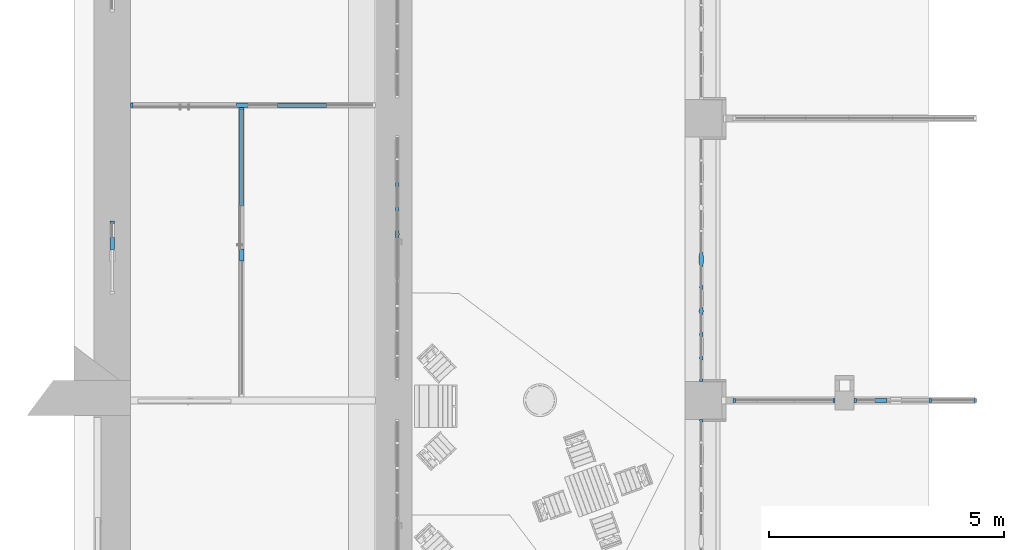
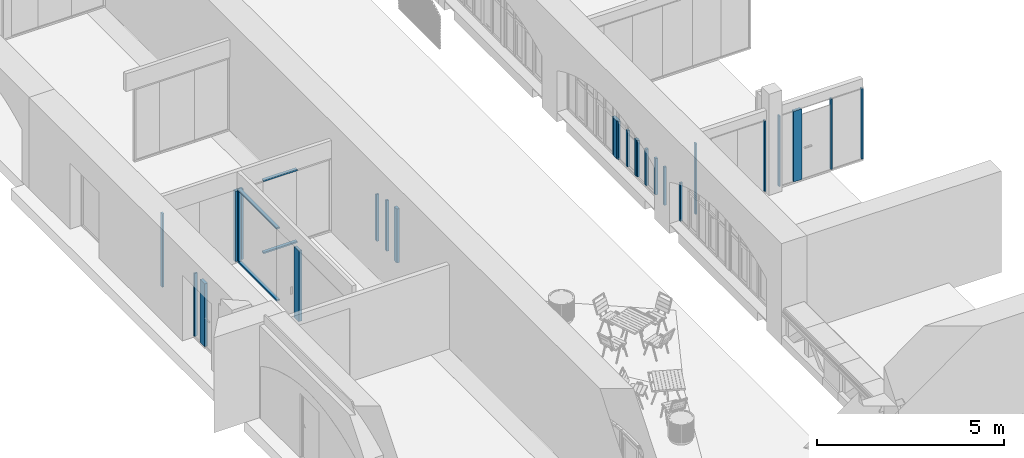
# One storey, part 5 of 88: 26 members, 8 elements without a shape of their own.
"""IFC2X3 building model written with IfcOpenShell, lengths in millimetres."""

from ifc_helpers import new_model, entity, si_unit, converted_unit, derived_unit, direction, frame, frame_2d, origin, origin_2d_with_axis, place, context, subcontext, project, spatial, polyline, circle_curve, parameter, trimmed, segment, composite_curve, rectangle, outline, extrude, source, transform, mapped, material, type_object, type_shapes, element, aggregate, save


model = new_model("IFC2X3")

# Units and contexts
model_context = context("Model", 3, precision=0.01, world=origin(), true_north=direction((6.123031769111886e-17, 1.0)))
body_context = subcontext(model_context, "Body", "Model", "MODEL_VIEW")
ifc_project = project(units=[si_unit("LENGTHUNIT", "METRE", prefix="MILLI"), si_unit("AREAUNIT", "SQUARE_METRE"), si_unit("VOLUMEUNIT", "CUBIC_METRE"), converted_unit("PLANEANGLEUNIT", "DEGREE", entity("IfcPlaneAngleMeasure", 0.017453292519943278), si_unit("PLANEANGLEUNIT", "RADIAN"), dimensions=[0, 0, 0, 0, 0, 0, 0]), si_unit("MASSUNIT", "GRAM", prefix="KILO"), derived_unit("MASSDENSITYUNIT", [(si_unit("MASSUNIT", "GRAM", prefix="KILO"), 1), (si_unit("LENGTHUNIT", "METRE"), -3)]), derived_unit("IONCONCENTRATIONUNIT", [(si_unit("MASSUNIT", "GRAM", prefix="KILO"), 1), (si_unit("LENGTHUNIT", "METRE"), -3)]), derived_unit("MOMENTOFINERTIAUNIT", [(si_unit("LENGTHUNIT", "METRE"), 4)]), si_unit("TIMEUNIT", "SECOND"), si_unit("FREQUENCYUNIT", "HERTZ"), si_unit("THERMODYNAMICTEMPERATUREUNIT", "DEGREE_CELSIUS"), derived_unit("THERMALTRANSMITTANCEUNIT", [(si_unit("MASSUNIT", "GRAM", prefix="KILO"), 1), (si_unit("THERMODYNAMICTEMPERATUREUNIT", "KELVIN"), -1), (si_unit("TIMEUNIT", "SECOND"), -3)]), derived_unit("THERMALCONDUCTANCEUNIT", [(si_unit("MASSUNIT", "GRAM", prefix="KILO"), 1), (si_unit("THERMODYNAMICTEMPERATUREUNIT", "KELVIN"), -1), (si_unit("TIMEUNIT", "SECOND"), -3), (si_unit("LENGTHUNIT", "METRE"), 1)]), derived_unit("VOLUMETRICFLOWRATEUNIT", [(si_unit("LENGTHUNIT", "METRE", prefix="DECI"), 3), (si_unit("TIMEUNIT", "SECOND"), -1)]), derived_unit("MASSFLOWRATEUNIT", [(si_unit("MASSUNIT", "GRAM", prefix="KILO"), 1), (si_unit("TIMEUNIT", "SECOND"), -1)]), derived_unit("ROTATIONALFREQUENCYUNIT", [(si_unit("TIMEUNIT", "SECOND"), -1)]), si_unit("ELECTRICCURRENTUNIT", "AMPERE"), si_unit("ELECTRICVOLTAGEUNIT", "VOLT"), si_unit("POWERUNIT", "WATT"), si_unit("FORCEUNIT", "NEWTON", prefix="KILO"), si_unit("ILLUMINANCEUNIT", "LUX"), si_unit("LUMINOUSFLUXUNIT", "LUMEN"), si_unit("LUMINOUSINTENSITYUNIT", "CANDELA"), si_unit("ENERGYUNIT", "JOULE"), derived_unit("USERDEFINED", [(si_unit("MASSUNIT", "GRAM", prefix="KILO"), -1), (si_unit("LENGTHUNIT", "METRE"), -2), (si_unit("TIMEUNIT", "SECOND"), 3), (si_unit("LUMINOUSFLUXUNIT", "LUMEN"), 1)]), derived_unit("USERDEFINED", [(si_unit("MASSUNIT", "GRAM", prefix="KILO"), 1), (si_unit("TIMEUNIT", "SECOND"), -3), (si_unit("LENGTHUNIT", "METRE"), 3), (si_unit("ELECTRICCURRENTUNIT", "AMPERE"), -2)]), derived_unit("SOUNDPOWERUNIT", [(si_unit("MASSUNIT", "GRAM", prefix="KILO"), 1), (si_unit("TIMEUNIT", "SECOND"), -3), (si_unit("LENGTHUNIT", "METRE"), 2)]), derived_unit("SOUNDPRESSUREUNIT", [(si_unit("MASSUNIT", "GRAM", prefix="KILO"), 1), (si_unit("LENGTHUNIT", "METRE"), -1), (si_unit("TIMEUNIT", "SECOND"), -2)]), derived_unit("LINEARVELOCITYUNIT", [(si_unit("LENGTHUNIT", "METRE"), 1), (si_unit("TIMEUNIT", "SECOND"), -1)]), si_unit("PRESSUREUNIT", "PASCAL"), derived_unit("USERDEFINED", [(si_unit("MASSUNIT", "GRAM", prefix="KILO"), 1), (si_unit("LENGTHUNIT", "METRE"), -2), (si_unit("TIMEUNIT", "SECOND"), -2)]), derived_unit("LINEARFORCEUNIT", [(si_unit("MASSUNIT", "GRAM", prefix="KILO"), 1), (si_unit("TIMEUNIT", "SECOND"), -2)]), derived_unit("PLANARFORCEUNIT", [(si_unit("MASSUNIT", "GRAM", prefix="KILO"), 1), (si_unit("LENGTHUNIT", "METRE"), -1), (si_unit("TIMEUNIT", "SECOND"), -2)]), derived_unit("SPECIFICHEATCAPACITYUNIT", [(si_unit("THERMODYNAMICTEMPERATUREUNIT", "KELVIN"), -1), (si_unit("LENGTHUNIT", "METRE"), 2), (si_unit("TIMEUNIT", "SECOND"), -2)]), derived_unit("HEATFLUXDENSITYUNIT", [(si_unit("MASSUNIT", "GRAM", prefix="KILO"), 1), (si_unit("TIMEUNIT", "SECOND"), -3)]), derived_unit("HEATINGVALUEUNIT", [(si_unit("LENGTHUNIT", "METRE"), 2), (si_unit("TIMEUNIT", "SECOND"), -2)]), derived_unit("VAPORPERMEABILITYUNIT", [(si_unit("LENGTHUNIT", "METRE"), -1), (si_unit("TIMEUNIT", "SECOND"), 1)]), derived_unit("DYNAMICVISCOSITYUNIT", [(si_unit("MASSUNIT", "GRAM", prefix="KILO"), 1), (si_unit("TIMEUNIT", "SECOND"), -1), (si_unit("LENGTHUNIT", "METRE"), -1)]), derived_unit("THERMALEXPANSIONCOEFFICIENTUNIT", [(si_unit("THERMODYNAMICTEMPERATUREUNIT", "KELVIN"), -1)]), derived_unit("MODULUSOFELASTICITYUNIT", [(si_unit("MASSUNIT", "GRAM", prefix="KILO"), 1), (si_unit("LENGTHUNIT", "METRE"), -1), (si_unit("TIMEUNIT", "SECOND"), -2)]), derived_unit("ISOTHERMALMOISTURECAPACITYUNIT", [(si_unit("MASSUNIT", "GRAM", prefix="KILO"), -1), (si_unit("LENGTHUNIT", "METRE"), 3)]), derived_unit("MOISTUREDIFFUSIVITYUNIT", [(si_unit("TIMEUNIT", "SECOND"), -1), (si_unit("LENGTHUNIT", "METRE"), 2)]), derived_unit("MASSPERLENGTHUNIT", [(si_unit("MASSUNIT", "GRAM", prefix="KILO"), 1), (si_unit("LENGTHUNIT", "METRE"), -1)]), derived_unit("THERMALRESISTANCEUNIT", [(si_unit("MASSUNIT", "GRAM", prefix="KILO"), -1), (si_unit("TIMEUNIT", "SECOND"), 3), (si_unit("THERMODYNAMICTEMPERATUREUNIT", "KELVIN"), 1)]), derived_unit("ACCELERATIONUNIT", [(si_unit("LENGTHUNIT", "METRE"), 1), (si_unit("TIMEUNIT", "SECOND"), -2)]), derived_unit("ANGULARVELOCITYUNIT", [(si_unit("TIMEUNIT", "SECOND"), -1), (si_unit("PLANEANGLEUNIT", "RADIAN"), 1)]), derived_unit("LINEARSTIFFNESSUNIT", [(si_unit("MASSUNIT", "GRAM", prefix="KILO"), 1), (si_unit("TIMEUNIT", "SECOND"), -2)]), derived_unit("WARPINGCONSTANTUNIT", [(si_unit("LENGTHUNIT", "METRE"), 6)]), derived_unit("LINEARMOMENTUNIT", [(si_unit("MASSUNIT", "GRAM", prefix="KILO"), 1), (si_unit("LENGTHUNIT", "METRE"), 1), (si_unit("TIMEUNIT", "SECOND"), -2)]), derived_unit("TORQUEUNIT", [(si_unit("MASSUNIT", "GRAM", prefix="KILO"), 1), (si_unit("LENGTHUNIT", "METRE"), 2), (si_unit("TIMEUNIT", "SECOND"), -2)])], contexts=[model_context])

# Site, building, storey
site_placement = place(None, origin())
site = spatial("IfcSite", under=ifc_project, at=site_placement, Name="Default", CompositionType="ELEMENT")
building_placement = place(site_placement, origin())
building = spatial("IfcBuilding", under=site, at=building_placement, Name="Eesti Rahvusraamatukogu hoone renoveerimise projekteerimistööd", CompositionType="ELEMENT")
storey_placement = place(building_placement, origin())
storey = spatial("IfcBuildingStorey", under=building, at=storey_placement, Name="1. korrus", CompositionType="ELEMENT", Elevation=0.0)

# Curtain wall, member
curtain_wall_type_1 = type_object("IfcCurtainWallType", Name="Curtain Wall:VLS Klaasvahesein profiilita 38db", PredefinedType="NOTDEFINED")
curtain_wall_1_placement = place(storey_placement, origin())
curtain_wall_1 = element("IfcCurtainWall", 1, at=curtain_wall_1_placement, inside=storey, type_object=curtain_wall_type_1, Name="Curtain Wall:VLS Klaasvahesein profiilita 38db", ObjectType="Curtain Wall:VLS Klaasvahesein profiilita 38db")
ifc_material_1 = material(Name="Aluminum")
member_type_1 = type_object("IfcMemberType", Name="Rectangular Mullion:50mm x 92mm", PredefinedType="MULLION", material=ifc_material_1)
shared_shape_1 = source(origin(), body_context, "Body", "SweptSolid", [
    extrude(rectangle(XDim=50.0, YDim=92.0, at=origin_2d_with_axis()), frame((-25.0, 0.0, -2400.0), z_axis=(0.0, 0.0, 1.0), x_axis=(-1.0, 0.0, 0.0)), (0.0, 0.0, 1.0), 2400.0000000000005),
])
type_shapes(member_type_1, [shared_shape_1])
member_1_placement = place(curtain_wall_1_placement, frame((-48580.0, 18670.0, 0.0), z_axis=(0.0, 0.0, -1.0), x_axis=(-1.0, 0.0, 0.0)))
member_1 = element("IfcMember", 2, at=member_1_placement, type_object=member_type_1, material=ifc_material_1, Name="Rectangular Mullion:50mm x 92mm", ObjectType="Rectangular Mullion:50mm x 92mm", context=body_context, shape_type="MappedRepresentation", body=[
    mapped(shared_shape_1, transform((0.0, 0.0, 0.0), scale=1.0)),
])

curtain_wall_2_placement = place(storey_placement, origin())
curtain_wall_2 = element("IfcCurtainWall", 3, at=curtain_wall_2_placement, inside=storey, type_object=curtain_wall_type_1, Name="Curtain Wall:VLS Klaasvahesein profiilita 38db", ObjectType="Curtain Wall:VLS Klaasvahesein profiilita 38db")
member_type_2 = type_object("IfcMemberType", Name="Rectangular Mullion:50mm x 92mm", PredefinedType="MULLION", material=ifc_material_1)
shared_shape_2 = source(origin(), body_context, "Body", "SweptSolid", [
    extrude(rectangle(XDim=50.0, YDim=92.0, at=origin_2d_with_axis()), frame((-25.0, 0.0, -2300.0), z_axis=(0.0, 0.0, 1.0), x_axis=(-1.0, 0.0, 0.0)), (0.0, 0.0, 1.0), 2300.0),
])
type_shapes(member_type_2, [shared_shape_2])
member_2_placement = place(curtain_wall_2_placement, frame((-46211.0, 18624.0, 2350.0), z_axis=(0.0, 0.0, 1.0), x_axis=(0.0, 1.0, 0.0)))
member_2 = element("IfcMember", 4, at=member_2_placement, type_object=member_type_2, material=ifc_material_1, Name="Rectangular Mullion:50mm x 92mm", ObjectType="Rectangular Mullion:50mm x 92mm", context=body_context, shape_type="MappedRepresentation", body=[
    mapped(shared_shape_2, transform((0.0, 0.0, 0.0), scale=1.0)),
])

curtain_wall_3_placement = place(storey_placement, origin())
curtain_wall_3 = element("IfcCurtainWall", 5, at=curtain_wall_3_placement, inside=storey, type_object=curtain_wall_type_1, Name="Curtain Wall:VLS Klaasvahesein profiilita 38db", ObjectType="Curtain Wall:VLS Klaasvahesein profiilita 38db")
member_3_placement = place(curtain_wall_3_placement, frame((-33590.0, 12390.0, 4000.0)))
member_3 = element("IfcMember", 6, at=member_3_placement, type_object=member_type_2, material=ifc_material_1, Name="Rectangular Mullion:50mm x 92mm", ObjectType="Rectangular Mullion:50mm x 92mm", context=body_context, shape_type="MappedRepresentation", body=[
    mapped(shared_shape_2, transform((0.0, 0.0, 0.0), scale=1.0)),
])

curtain_wall_4_placement = place(storey_placement, origin())
curtain_wall_4 = element("IfcCurtainWall", 7, at=curtain_wall_4_placement, inside=storey, type_object=curtain_wall_type_1, Name="Curtain Wall:VLS Klaasvahesein profiilita 38db", ObjectType="Curtain Wall:VLS Klaasvahesein profiilita 38db")
member_4_placement = place(curtain_wall_4_placement, frame((-33190.0, 12390.0, 4000.0), z_axis=(0.0, 0.0, 1.0), x_axis=(-1.0, 0.0, 0.0)))
member_4 = element("IfcMember", 8, at=member_4_placement, type_object=member_type_2, material=ifc_material_1, Name="Rectangular Mullion:50mm x 92mm", ObjectType="Rectangular Mullion:50mm x 92mm", context=body_context, shape_type="MappedRepresentation", body=[
    mapped(shared_shape_2, transform((0.0, 0.0, 0.0), scale=1.0)),
])

# Member
member_type_3 = type_object("IfcMemberType", Name="Rectangular Mullion:50mm x 92mm", PredefinedType="MULLION", material=ifc_material_1)
shared_shape_3 = source(origin(), body_context, "Body", "SweptSolid", [
    extrude(rectangle(XDim=50.0, YDim=92.0, at=frame_2d((0.0, 3.552713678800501e-15), x_axis=(1.0, 0.0))), frame((-25.0, 0.0, -1041.9999998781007), z_axis=(0.0, 0.0, 1.0), x_axis=(-1.0, 0.0, 0.0)), (0.0, 0.0, 1.0), 1041.9999998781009),
])
type_shapes(member_type_3, [shared_shape_3])
member_5_placement = place(curtain_wall_1_placement, frame((-44412.00000018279, 18670.0, 0.0), z_axis=(1.0, 0.0, 0.0), x_axis=(0.0, 0.0, -1.0)))
member_5 = element("IfcMember", 9, at=member_5_placement, type_object=member_type_3, material=ifc_material_1, Name="Rectangular Mullion:50mm x 92mm", ObjectType="Rectangular Mullion:50mm x 92mm", context=body_context, shape_type="MappedRepresentation", body=[
    mapped(shared_shape_3, transform((0.0, 0.0, 0.0), scale=1.0)),
])

member_type_4 = type_object("IfcMemberType", Name="Rectangular Mullion:50mm x 92mm", PredefinedType="MULLION", material=ifc_material_1)
shared_shape_4 = source(origin(), body_context, "Body", "SweptSolid", [
    extrude(rectangle(XDim=50.0, YDim=92.0, at=frame_2d((0.0, 3.552713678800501e-15), x_axis=(1.0, 0.0))), frame((-25.0, 0.0, -1041.999999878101), z_axis=(0.0, 0.0, 1.0), x_axis=(-1.0, 0.0, 0.0)), (0.0, 0.0, 1.0), 1041.9999998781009),
])
type_shapes(member_type_4, [shared_shape_4])
member_6_placement = place(curtain_wall_1_placement, frame((-45454.000000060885, 18670.0, 2400.0), z_axis=(-1.0, 0.0, 0.0), x_axis=(0.0, 0.0, 1.0)))
member_6 = element("IfcMember", 10, at=member_6_placement, type_object=member_type_4, material=ifc_material_1, Name="Rectangular Mullion:50mm x 92mm", ObjectType="Rectangular Mullion:50mm x 92mm", context=body_context, shape_type="MappedRepresentation", body=[
    mapped(shared_shape_4, transform((0.0, 0.0, 0.0), scale=1.0)),
])

member_type_5 = type_object("IfcMemberType", Name="Rectangular Mullion:250mm x 92mm VASAK", PredefinedType="MULLION", material=ifc_material_1)
shared_shape_5 = source(origin(), body_context, "Body", "SweptSolid", [
    extrude(rectangle(XDim=250.00000000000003, YDim=92.0, at=origin_2d_with_axis()), frame((-100.0, 0.0, -2300.0), z_axis=(0.0, 0.0, 1.0), x_axis=(-1.0, 0.0, 0.0)), (0.0, 0.0, 1.0), 2300.0),
])
type_shapes(member_type_5, [shared_shape_5])
member_7_placement = place(curtain_wall_1_placement, frame((-46305.0, 18670.0, 50.0), z_axis=(0.0, 0.0, -1.0), x_axis=(-1.0, 0.0, 0.0)))
member_7 = element("IfcMember", 11, at=member_7_placement, type_object=member_type_5, material=ifc_material_1, Name="Rectangular Mullion:250mm x 92mm VASAK", ObjectType="Rectangular Mullion:250mm x 92mm VASAK", context=body_context, shape_type="MappedRepresentation", body=[
    mapped(shared_shape_5, transform((0.0, 0.0, 0.0), scale=1.0)),
])

aggregate(curtain_wall_1, [member_1, member_5, member_6, member_7])

member_8_placement = place(curtain_wall_4_placement, frame((-32515.0, 12390.0, 1700.0), z_axis=(0.0, 0.0, -1.0), x_axis=(1.0, 0.0, 0.0)))
member_8 = element("IfcMember", 12, at=member_8_placement, type_object=member_type_5, material=ifc_material_1, Name="Rectangular Mullion:250mm x 92mm VASAK", ObjectType="Rectangular Mullion:250mm x 92mm VASAK", context=body_context, shape_type="MappedRepresentation", body=[
    mapped(shared_shape_5, transform((0.0, 0.0, 0.0), scale=1.0)),
])

member_type_6 = type_object("IfcMemberType", Name="Rectangular Mullion:50mm x 92mm", PredefinedType="MULLION", material=ifc_material_1)
shared_shape_6 = source(origin(), body_context, "Body", "SweptSolid", [
    extrude(rectangle(XDim=50.0, YDim=92.0, at=frame_2d((0.0, 3.552713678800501e-15), x_axis=(1.0, 0.0))), frame((-25.0, 0.0, -2090.91666686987), z_axis=(0.0, 0.0, 1.0), x_axis=(-1.0, 0.0, 0.0)), (0.0, 0.0, 1.0), 2090.91666686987),
])
type_shapes(member_type_6, [shared_shape_6])
member_9_placement = place(curtain_wall_2_placement, frame((-46211.0, 18624.0, 0.0), z_axis=(0.0, 1.0, 0.0), x_axis=(0.0, 0.0, -1.0)))
member_9 = element("IfcMember", 13, at=member_9_placement, type_object=member_type_6, material=ifc_material_1, Name="Rectangular Mullion:50mm x 92mm", ObjectType="Rectangular Mullion:50mm x 92mm", context=body_context, shape_type="MappedRepresentation", body=[
    mapped(shared_shape_6, transform((0.0, 0.0, 0.0), scale=1.0)),
])

member_type_7 = type_object("IfcMemberType", Name="Rectangular Mullion:50mm x 92mm", PredefinedType="MULLION", material=ifc_material_1)
shared_shape_7 = source(origin(), body_context, "Body", "SweptSolid", [
    extrude(rectangle(XDim=50.0, YDim=92.0, at=origin_2d_with_axis()), frame((-25.0, 0.0, -2300.0), z_axis=(0.0, 0.0, 1.0), x_axis=(-1.0, 0.0, 0.0)), (0.0, 0.0, 1.0), 2300.0),
])
type_shapes(member_type_7, [shared_shape_7])
member_10_placement = place(curtain_wall_3_placement, frame((-35765.49999999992, 12390.0, 1700.0), z_axis=(0.0, 0.0, -1.0), x_axis=(-1.0, 0.0, 0.0)))
member_10 = element("IfcMember", 14, at=member_10_placement, type_object=member_type_7, material=ifc_material_1, Name="Rectangular Mullion:50mm x 92mm", ObjectType="Rectangular Mullion:50mm x 92mm", context=body_context, shape_type="MappedRepresentation", body=[
    mapped(shared_shape_7, transform((0.0, 0.0, 0.0), scale=1.0)),
])

aggregate(curtain_wall_3, [member_10, member_3])

member_11_placement = place(curtain_wall_4_placement, frame((-30590.0, 12390.0, 1700.0), z_axis=(0.0, 0.0, -1.0), x_axis=(1.0, 0.0, 0.0)))
member_11 = element("IfcMember", 15, at=member_11_placement, type_object=member_type_7, material=ifc_material_1, Name="Rectangular Mullion:50mm x 92mm", ObjectType="Rectangular Mullion:50mm x 92mm", context=body_context, shape_type="MappedRepresentation", body=[
    mapped(shared_shape_7, transform((0.0, 0.0, 0.0), scale=1.0)),
])

member_type_8 = type_object("IfcMemberType", Name="Rectangular Mullion:50mm x 92mm", PredefinedType="MULLION", material=ifc_material_1)
shared_shape_8 = source(origin(), body_context, "Body", "SweptSolid", [
    extrude(rectangle(XDim=50.0, YDim=92.0, at=frame_2d((0.0, 3.552713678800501e-15), x_axis=(1.0, 0.0))), frame((-25.0, 0.0, -2090.91666686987), z_axis=(0.0, 0.0, 1.0), x_axis=(-1.0, 0.0, 0.0)), (0.0, 0.0, 1.0), 2090.91666686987),
])
type_shapes(member_type_8, [shared_shape_8])
member_12_placement = place(curtain_wall_2_placement, frame((-46211.0, 16533.083333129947, 2400.0), z_axis=(0.0, -1.0, 0.0), x_axis=(0.0, 0.0, 1.0)))
member_12 = element("IfcMember", 16, at=member_12_placement, type_object=member_type_8, material=ifc_material_1, Name="Rectangular Mullion:50mm x 92mm", ObjectType="Rectangular Mullion:50mm x 92mm", context=body_context, shape_type="MappedRepresentation", body=[
    mapped(shared_shape_8, transform((0.0, 0.0, 0.0), scale=1.0)),
])

member_type_9 = type_object("IfcMemberType", Name="Rectangular Mullion:250mm x 92mm PAREM", PredefinedType="MULLION", material=ifc_material_1)
shared_shape_9 = source(origin(), body_context, "Body", "SweptSolid", [
    extrude(rectangle(XDim=250.00000000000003, YDim=92.0, at=origin_2d_with_axis()), frame((100.0, 0.0, -2300.0), z_axis=(0.0, 0.0, 1.0), x_axis=(-1.0, 0.0, 0.0)), (0.0, 0.0, 1.0), 2300.0),
])
type_shapes(member_type_9, [shared_shape_9])
member_13_placement = place(curtain_wall_2_placement, frame((-46211.0, 15583.083333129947, 50.0), z_axis=(0.0, 0.0, -1.0), x_axis=(0.0, -1.0, 0.0)))
member_13 = element("IfcMember", 17, at=member_13_placement, type_object=member_type_9, material=ifc_material_1, Name="Rectangular Mullion:250mm x 92mm PAREM", ObjectType="Rectangular Mullion:250mm x 92mm PAREM", context=body_context, shape_type="MappedRepresentation", body=[
    mapped(shared_shape_9, transform((0.0, 0.0, 0.0), scale=1.0)),
])

aggregate(curtain_wall_2, [member_9, member_2, member_12, member_13])

# Curtain wall, members
curtain_wall_type_2 = type_object("IfcCurtainWallType", Name="Curtain Wall:Ak-02", PredefinedType="NOTDEFINED")
curtain_wall_5_placement = place(storey_placement, origin())
curtain_wall_5 = element("IfcCurtainWall", 18, at=curtain_wall_5_placement, inside=storey, type_object=curtain_wall_type_2, Name="Curtain Wall:Ak-02", ObjectType="Curtain Wall:Ak-02")
ifc_material_2 = material(Name="LUMION_dark steel window frames")
member_type_10 = type_object("IfcMemberType", Name="Rectangular Mullion:NEW 80x70mm", PredefinedType="MULLION", material=ifc_material_2)
shared_shape_10 = source(origin(), body_context, "Body", "SweptSolid", [
    extrude(rectangle(XDim=80.0, YDim=70.0, at=frame_2d((0.0, 3.552713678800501e-15), x_axis=(1.0, 0.0))), frame((0.0, 0.0, -1190.0), z_axis=(0.0, 0.0, 1.0), x_axis=(-1.0, 0.0, 0.0)), (0.0, 0.0, 1.0), 1189.9999999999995),
])
type_shapes(member_type_10, [shared_shape_10])
member_14_placement = place(curtain_wall_5_placement, frame((-36440.0, 14790.0, 2030.0), z_axis=(0.0, 0.0, -1.0), x_axis=(0.0, -1.0, 0.0)))
member_14 = element("IfcMember", 19, at=member_14_placement, type_object=member_type_10, material=ifc_material_2, Name="Rectangular Mullion:NEW 80x70mm", ObjectType="Rectangular Mullion:NEW 80x70mm", context=body_context, shape_type="MappedRepresentation", body=[
    mapped(shared_shape_10, transform((0.0, 0.0, 0.0), scale=1.0)),
])
member_15_placement = place(curtain_wall_5_placement, frame((-36440.0, 13790.0, 2030.0), z_axis=(0.0, 0.0, -1.0), x_axis=(0.0, -1.0, 0.0)))
member_15 = element("IfcMember", 20, at=member_15_placement, type_object=member_type_10, material=ifc_material_2, Name="Rectangular Mullion:NEW 80x70mm", ObjectType="Rectangular Mullion:NEW 80x70mm", context=body_context, shape_type="MappedRepresentation", body=[
    mapped(shared_shape_10, transform((0.0, 0.0, 0.0), scale=1.0)),
])
member_16_placement = place(curtain_wall_5_placement, frame((-36440.0, 13290.0, 2030.0), z_axis=(0.0, 0.0, -1.0), x_axis=(0.0, -1.0, 0.0)))
member_16 = element("IfcMember", 21, at=member_16_placement, type_object=member_type_10, material=ifc_material_2, Name="Rectangular Mullion:NEW 80x70mm", ObjectType="Rectangular Mullion:NEW 80x70mm", context=body_context, shape_type="MappedRepresentation", body=[
    mapped(shared_shape_10, transform((0.0, 0.0, 0.0), scale=1.0)),
])
member_type_11 = type_object("IfcMemberType", Name="Rectangular Mullion:NEW 150x90mm", PredefinedType="MULLION", material=ifc_material_2)
shared_shape_11 = source(origin(), body_context, "Body", "SweptSolid", [
    extrude(outline(polyline([(20.0, -40.0), (75.0, -40.0), (75.0, 40.0), (20.0, 40.0), (20.0, 45.0), (-20.0, 45.0), (-20.0, 40.0), (-75.0, 40.0), (-75.0, -40.0), (-20.0, -40.0), (-20.0, -45.0), (20.0, -45.0), (20.0, -40.0)])), frame((0.0, 0.0, -1190.0), z_axis=(0.0, 0.0, 1.0), x_axis=(-1.0, 0.0, 0.0)), (0.0, 0.0, 1.0), 1189.9999999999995),
])
type_shapes(member_type_11, [shared_shape_11])
member_17_placement = place(curtain_wall_5_placement, frame((-36440.0, 14290.0, 2030.0), z_axis=(0.0, 0.0, -1.0), x_axis=(0.0, -1.0, 0.0)))
member_17 = element("IfcMember", 22, at=member_17_placement, type_object=member_type_11, material=ifc_material_2, Name="Rectangular Mullion:NEW 150x90mm", ObjectType="Rectangular Mullion:NEW 150x90mm", context=body_context, shape_type="MappedRepresentation", body=[
    mapped(shared_shape_11, transform((0.0, 0.0, 0.0), scale=1.0)),
])
member_type_12 = type_object("IfcMemberType", Name="Rectangular Mullion:NEW 300x100mm", PredefinedType="MULLION", material=ifc_material_2)
shared_shape_12 = source(origin(), body_context, "Body", "SweptSolid", [
    extrude(outline(polyline([(85.0, -35.0), (150.0, -35.0), (150.0, 35.0), (85.0, 35.0), (85.0, 50.0), (-85.0, 50.0), (-85.0, 35.0), (-150.0, 35.0), (-150.0, -35.0), (-85.0, -35.0), (-85.0, -50.0), (85.0, -50.0), (85.0, -35.0)])), frame((0.0, 0.0, -1250.0), z_axis=(0.0, 0.0, 1.0), x_axis=(-1.0, 0.0, 0.0)), (0.0, 0.0, 1.0), 1249.9999999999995),
])
type_shapes(member_type_12, [shared_shape_12])
member_18_placement = place(curtain_wall_5_placement, frame((-36440.0, 15390.0, 1970.0), z_axis=(0.0, 0.0, -1.0), x_axis=(0.0, -1.0, 0.0)))
member_18 = element("IfcMember", 23, at=member_18_placement, type_object=member_type_12, material=ifc_material_2, Name="Rectangular Mullion:NEW 300x100mm", ObjectType="Rectangular Mullion:NEW 300x100mm", context=body_context, shape_type="MappedRepresentation", body=[
    mapped(shared_shape_12, transform((0.0, 0.0, 0.0), scale=1.0)),
])
member_type_13 = type_object("IfcMemberType", Name="Rectangular Mullion:NEW 60x70mm", PredefinedType="MULLION", material=ifc_material_2)
shared_shape_13 = source(origin(), body_context, "Body", "SweptSolid", [
    extrude(rectangle(XDim=60.0, YDim=70.0, at=frame_2d((0.0, 3.552713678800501e-15), x_axis=(1.0, 0.0))), frame((-30.0, 0.0, -1250.0), z_axis=(0.0, 0.0, 1.0), x_axis=(-1.0, 0.0, 0.0)), (0.0, 0.0, 1.0), 1249.9999999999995),
])
type_shapes(member_type_13, [shared_shape_13])
member_19_placement = place(curtain_wall_5_placement, frame((-36440.0, 12790.0, 1970.0), z_axis=(0.0, 0.0, -1.0), x_axis=(0.0, -1.0, 0.0)))
member_19 = element("IfcMember", 24, at=member_19_placement, type_object=member_type_13, material=ifc_material_2, Name="Rectangular Mullion:NEW 60x70mm", ObjectType="Rectangular Mullion:NEW 60x70mm", context=body_context, shape_type="MappedRepresentation", body=[
    mapped(shared_shape_13, transform((0.0, 0.0, 0.0), scale=1.0)),
])
aggregate(curtain_wall_5, [member_18, member_14, member_17, member_15, member_16, member_19])

# Curtain wall, member
curtain_wall_6_placement = place(storey_placement, origin())
curtain_wall_6 = element("IfcCurtainWall", 25, at=curtain_wall_6_placement, inside=storey, type_object=curtain_wall_type_2, Name="Curtain Wall:Ak-02", ObjectType="Curtain Wall:Ak-02")
member_type_14 = type_object("IfcMemberType", Name="Rectangular Mullion:NEW 60x70mm", PredefinedType="MULLION", material=ifc_material_2)
shared_shape_14 = source(origin(), body_context, "Body", "SweptSolid", [
    extrude(rectangle(XDim=60.0, YDim=70.0, at=frame_2d((0.0, 3.552713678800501e-15), x_axis=(1.0, 0.0))), frame((-30.0, 0.0, -1250.0), z_axis=(0.0, 0.0, 1.0), x_axis=(-1.0, 0.0, 0.0)), (0.0, 0.0, 1.0), 1249.9999999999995),
])
type_shapes(member_type_14, [shared_shape_14])
member_20_placement = place(curtain_wall_6_placement, frame((-36440.0, 11990.0, 3220.0), z_axis=(0.0, 0.0, 1.0), x_axis=(0.0, 1.0, 0.0)))
member_20 = element("IfcMember", 26, at=member_20_placement, type_object=member_type_14, material=ifc_material_2, Name="Rectangular Mullion:NEW 60x70mm", ObjectType="Rectangular Mullion:NEW 60x70mm", context=body_context, shape_type="MappedRepresentation", body=[
    mapped(shared_shape_14, transform((0.0, 0.0, 0.0), scale=1.0)),
])
aggregate(curtain_wall_6, [member_20])

# Curtain wall, members
curtain_wall_type_3 = type_object("IfcCurtainWallType", Name="Curtain Wall:Ak-05", PredefinedType="NOTDEFINED")
curtain_wall_7_placement = place(storey_placement, origin())
curtain_wall_7 = element("IfcCurtainWall", 27, at=curtain_wall_7_placement, inside=storey, type_object=curtain_wall_type_3, Name="Curtain Wall:Ak-05", ObjectType="Curtain Wall:Ak-05")
member_type_15 = type_object("IfcMemberType", Name="Rectangular Mullion:NEW 150x90mm", PredefinedType="MULLION", material=ifc_material_2)
shared_shape_15 = source(origin(), body_context, "Body", "SweptSolid", [
    extrude(outline(polyline([(40.0, -20.0), (45.0, -20.0), (45.0, 20.0), (40.0, 20.0), (40.0, 75.0), (-40.0, 75.0), (-40.0, 20.0), (-45.0, 20.0), (-45.0, -20.0), (-40.0, -20.0), (-40.0, -75.0), (40.0, -75.0), (40.0, -20.0)])), frame((0.0, 0.0, -1760.0), z_axis=(0.0, 0.0, 1.0), x_axis=(0.0, -1.0, 0.0)), (0.0, 0.0, 1.0), 1759.9999999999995),
])
type_shapes(member_type_15, [shared_shape_15])
member_21_placement = place(curtain_wall_7_placement, frame((-42905.0, 15925.0, 500.0), z_axis=(0.0, 0.0, -1.0), x_axis=(0.0, -1.0, 0.0)))
member_21 = element("IfcMember", 28, at=member_21_placement, type_object=member_type_15, material=ifc_material_2, Name="Rectangular Mullion:NEW 150x90mm", ObjectType="Rectangular Mullion:NEW 150x90mm", context=body_context, shape_type="MappedRepresentation", body=[
    mapped(shared_shape_15, transform((0.0, 0.0, 0.0), scale=1.0)),
])
member_type_16 = type_object("IfcMemberType", Name="Rectangular Mullion:NEW 80x70mm", PredefinedType="MULLION", material=ifc_material_2)
shared_shape_16 = source(origin(), body_context, "Body", "SweptSolid", [
    extrude(outline(composite_curve([segment(polyline([(-991.5820577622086, -37.76219950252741), (667.9703852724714, -37.76219950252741)]), True, "CONTINUOUS"), segment(trimmed(circle_curve(frame_2d((-4704.862624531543, -1027.7621995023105), x_axis=(0.9891368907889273, 0.14699731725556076)), 5463.280566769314), [parameter(1.9872788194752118)], [parameter(2.294672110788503)], True, "PARAMETER"), True, "CONTINUOUS"), segment(trimmed(circle_curve(frame_2d((-4704.862624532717, -1027.7621995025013), x_axis=(0.9824581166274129, 0.18648337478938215)), 5463.280566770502), [parameter(0.0)], [parameter(0.546930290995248)], True, "PARAMETER"), True, "CONTINUOUS"), segment(polyline([(652.6120185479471, 42.23780049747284), (-991.5820577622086, 42.23780049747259)]), True, "CONTINUOUS"), segment(polyline([(-991.5820577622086, 42.23780049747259), (-991.5820577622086, -37.76219950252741)]), True, "CONTINUOUS")], self_intersect=False)), frame((2.237800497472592, -35.0, -991.5820577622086), z_axis=(0.0, 1.0, 0.0), x_axis=(0.0, 0.0, -1.0)), (0.0, 0.0, 1.0), 69.99999999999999),
])
type_shapes(member_type_16, [shared_shape_16])
member_22_placement = place(curtain_wall_7_placement, frame((-42905.0, 16455.0, 540.0), z_axis=(0.0, 0.0, -1.0), x_axis=(0.0, -1.0, 0.0)))
member_22 = element("IfcMember", 29, at=member_22_placement, type_object=member_type_16, material=ifc_material_2, Name="Rectangular Mullion:NEW 80x70mm", ObjectType="Rectangular Mullion:NEW 80x70mm", context=body_context, shape_type="MappedRepresentation", body=[
    mapped(shared_shape_16, transform((0.0, 0.0, 0.0), scale=1.0)),
])
member_type_17 = type_object("IfcMemberType", Name="Rectangular Mullion:NEW 80x70mm", PredefinedType="MULLION", material=ifc_material_2)
shared_shape_17 = source(origin(), body_context, "Body", "SweptSolid", [
    extrude(outline(composite_curve([segment(polyline([(-914.4623251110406, -36.610709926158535), (619.8312668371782, -36.610709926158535)]), True, "CONTINUOUS"), segment(trimmed(circle_curve(frame_2d((-4627.742891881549, -1556.6107099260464), x_axis=(0.9824581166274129, 0.18648337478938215)), 5463.280566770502), [parameter(5.406435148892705)], [parameter(5.658307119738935)], True, "PARAMETER"), True, "CONTINUOUS"), segment(trimmed(circle_curve(frame_2d((-4627.742891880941, -1556.6107099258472), x_axis=(0.9592847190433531, 0.28244083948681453)), 5463.280566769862), [parameter(0.0)], [parameter(0.6235815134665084)], True, "PARAMETER"), True, "CONTINUOUS"), segment(polyline([(595.9947117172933, 43.38929007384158), (-914.4623251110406, 43.389290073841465)]), True, "CONTINUOUS"), segment(polyline([(-914.4623251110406, 43.389290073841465), (-914.4623251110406, -36.610709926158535)]), True, "CONTINUOUS")], self_intersect=False)), frame((3.389290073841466, -35.0, -914.4623251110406), z_axis=(0.0, 1.0, 0.0), x_axis=(0.0, 0.0, -1.0)), (0.0, 0.0, 1.0), 69.99999999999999),
])
type_shapes(member_type_17, [shared_shape_17])
member_23_placement = place(curtain_wall_7_placement, frame((-42905.0, 16985.0, 540.0), z_axis=(0.0, 0.0, -1.0), x_axis=(0.0, -1.0, 0.0)))
member_23 = element("IfcMember", 30, at=member_23_placement, type_object=member_type_17, material=ifc_material_2, Name="Rectangular Mullion:NEW 80x70mm", ObjectType="Rectangular Mullion:NEW 80x70mm", context=body_context, shape_type="MappedRepresentation", body=[
    mapped(shared_shape_17, transform((0.0, 0.0, 0.0), scale=1.0)),
])
aggregate(curtain_wall_7, [member_21, member_22, member_23])

curtain_wall_8_placement = place(storey_placement, origin())
curtain_wall_8 = element("IfcCurtainWall", 31, at=curtain_wall_8_placement, inside=storey, type_object=curtain_wall_type_1, Name="Curtain Wall:VLS Klaasvahesein profiilita 38db", ObjectType="Curtain Wall:VLS Klaasvahesein profiilita 38db")
member_type_18 = type_object("IfcMemberType", Name="Rectangular Mullion:50mm x 92mm", PredefinedType="MULLION", material=ifc_material_1)
shared_shape_18 = source(origin(), body_context, "Body", "SweptSolid", [
    extrude(rectangle(XDim=50.0, YDim=92.0, at=frame_2d((0.0, 3.552713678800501e-15), x_axis=(1.0, 0.0))), frame((-25.0, 0.0, -2050.0), z_axis=(0.0, 0.0, 1.0), x_axis=(-1.0, 0.0, 0.0)), (0.0, 0.0, 1.0), 2050.0),
])
type_shapes(member_type_18, [shared_shape_18])
member_24_placement = place(curtain_wall_8_placement, frame((-48970.0, 16205.0, 2100.0), z_axis=(0.0, 0.0, 1.0), x_axis=(0.0, 1.0, 0.0)))
member_24 = element("IfcMember", 32, at=member_24_placement, type_object=member_type_18, material=ifc_material_1, Name="Rectangular Mullion:50mm x 92mm", ObjectType="Rectangular Mullion:50mm x 92mm", context=body_context, shape_type="MappedRepresentation", body=[
    mapped(shared_shape_18, transform((0.0, 0.0, 0.0), scale=1.0)),
])
member_type_19 = type_object("IfcMemberType", Name="Rectangular Mullion:250mm x 92mm VASAK", PredefinedType="MULLION", material=ifc_material_1)
shared_shape_19 = source(origin(), body_context, "Body", "SweptSolid", [
    extrude(rectangle(XDim=250.00000000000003, YDim=92.0, at=origin_2d_with_axis()), frame((-100.0, 0.0, -2050.0), z_axis=(0.0, 0.0, 1.0), x_axis=(-1.0, 0.0, 0.0)), (0.0, 0.0, 1.0), 2050.0),
])
type_shapes(member_type_19, [shared_shape_19])
member_25_placement = place(curtain_wall_8_placement, frame((-48970.0, 15630.0, 50.0), z_axis=(0.0, 0.0, -1.0), x_axis=(0.0, -1.0, 0.0)))
member_25 = element("IfcMember", 33, at=member_25_placement, type_object=member_type_19, material=ifc_material_1, Name="Rectangular Mullion:250mm x 92mm VASAK", ObjectType="Rectangular Mullion:250mm x 92mm VASAK", context=body_context, shape_type="MappedRepresentation", body=[
    mapped(shared_shape_19, transform((0.0, 0.0, 0.0), scale=1.0)),
])
aggregate(curtain_wall_8, [member_24, member_25])

# Member
member_type_20 = type_object("IfcMemberType", Name="Rectangular Mullion:50mm x 92mm", PredefinedType="MULLION", material=ifc_material_1)
shared_shape_20 = source(origin(), body_context, "Body", "SweptSolid", [
    extrude(rectangle(XDim=50.0, YDim=92.0, at=frame_2d((0.0, -3.552713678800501e-15), x_axis=(1.0, 0.0))), frame((0.0, 0.0, -2300.0), z_axis=(0.0, 0.0, 1.0), x_axis=(-1.0, 0.0, 0.0)), (0.0, 0.0, 1.0), 2300.0),
])
type_shapes(member_type_20, [shared_shape_20])
member_26_placement = place(curtain_wall_4_placement, frame((-31565.0, 12390.0, 1700.0), z_axis=(0.0, 0.0, -1.0), x_axis=(1.0, 0.0, 0.0)))
member_26 = element("IfcMember", 34, at=member_26_placement, type_object=member_type_20, material=ifc_material_1, Name="Rectangular Mullion:50mm x 92mm", ObjectType="Rectangular Mullion:50mm x 92mm", context=body_context, shape_type="MappedRepresentation", body=[
    mapped(shared_shape_20, transform((0.0, 0.0, 0.0), scale=1.0)),
])

aggregate(curtain_wall_4, [member_11, member_4, member_8, member_26])

save(model, "model.ifc")
